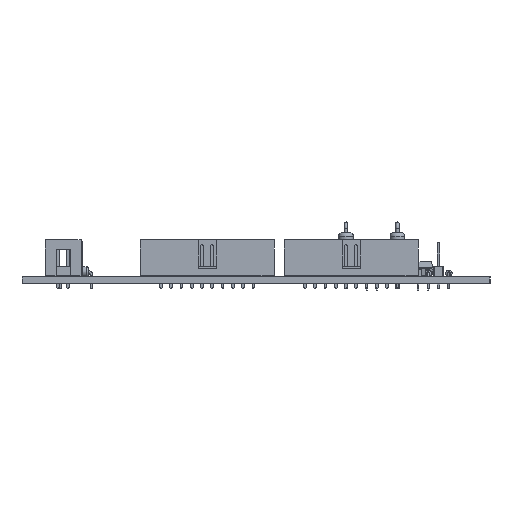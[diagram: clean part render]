
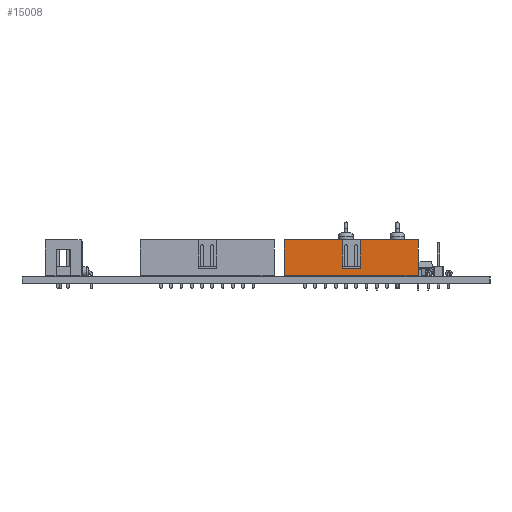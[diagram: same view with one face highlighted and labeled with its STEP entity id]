
A CAD part, left-side view. The second image highlights one B-rep face of the part: STEP entity #15008.
In plain terms, the highlighted planar face has unit normal (-1, 0, 0).
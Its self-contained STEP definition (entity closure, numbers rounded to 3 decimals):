
#15008 = ADVANCED_FACE('',(#15009),#15023,.T.);
#15009 = FACE_BOUND('',#15010,.T.);
#15010 = EDGE_LOOP('',(#15011,#15046,#15074,#15102,#15130,#15158,#15186,
    #15214));
#15011 = ORIENTED_EDGE('',*,*,#15012,.F.);
#15012 = EDGE_CURVE('',#15013,#15015,#15017,.T.);
#15013 = VERTEX_POINT('',#15014);
#15014 = CARTESIAN_POINT('',(-3.155,5.1,0.25));
#15015 = VERTEX_POINT('',#15016);
#15016 = CARTESIAN_POINT('',(-3.155,5.1,9.1));
#15017 = SURFACE_CURVE('',#15018,(#15022,#15034),.PCURVE_S1.);
#15018 = LINE('',#15019,#15020);
#15019 = CARTESIAN_POINT('',(-3.155,5.1,0.25));
#15020 = VECTOR('',#15021,1.);
#15021 = DIRECTION('',(0.,0.,1.));
#15022 = PCURVE('',#15023,#15028);
#15023 = PLANE('',#15024);
#15024 = AXIS2_PLACEMENT_3D('',#15025,#15026,#15027);
#15025 = CARTESIAN_POINT('',(-3.155,-11.43,4.675));
#15026 = DIRECTION('',(-1.,0.,0.));
#15027 = DIRECTION('',(0.,0.,-1.));
#15028 = DEFINITIONAL_REPRESENTATION('',(#15029),#15033);
#15029 = LINE('',#15030,#15031);
#15030 = CARTESIAN_POINT('',(4.425,-16.53));
#15031 = VECTOR('',#15032,1.);
#15032 = DIRECTION('',(-1.,0.));
#15033 = ( GEOMETRIC_REPRESENTATION_CONTEXT(2) 
PARAMETRIC_REPRESENTATION_CONTEXT() REPRESENTATION_CONTEXT('2D SPACE',''
  ) );
#15034 = PCURVE('',#15035,#15040);
#15035 = PLANE('',#15036);
#15036 = AXIS2_PLACEMENT_3D('',#15037,#15038,#15039);
#15037 = CARTESIAN_POINT('',(1.27,5.1,4.675));
#15038 = DIRECTION('',(0.,1.,0.));
#15039 = DIRECTION('',(0.,0.,1.));
#15040 = DEFINITIONAL_REPRESENTATION('',(#15041),#15045);
#15041 = LINE('',#15042,#15043);
#15042 = CARTESIAN_POINT('',(-4.425,-4.425));
#15043 = VECTOR('',#15044,1.);
#15044 = DIRECTION('',(1.,0.));
#15045 = ( GEOMETRIC_REPRESENTATION_CONTEXT(2) 
PARAMETRIC_REPRESENTATION_CONTEXT() REPRESENTATION_CONTEXT('2D SPACE',''
  ) );
#15046 = ORIENTED_EDGE('',*,*,#15047,.T.);
#15047 = EDGE_CURVE('',#15013,#15048,#15050,.T.);
#15048 = VERTEX_POINT('',#15049);
#15049 = CARTESIAN_POINT('',(-3.155,-27.96,0.25));
#15050 = SURFACE_CURVE('',#15051,(#15055,#15062),.PCURVE_S1.);
#15051 = LINE('',#15052,#15053);
#15052 = CARTESIAN_POINT('',(-3.155,5.1,0.25));
#15053 = VECTOR('',#15054,1.);
#15054 = DIRECTION('',(0.,-1.,0.));
#15055 = PCURVE('',#15023,#15056);
#15056 = DEFINITIONAL_REPRESENTATION('',(#15057),#15061);
#15057 = LINE('',#15058,#15059);
#15058 = CARTESIAN_POINT('',(4.425,-16.53));
#15059 = VECTOR('',#15060,1.);
#15060 = DIRECTION('',(0.,1.));
#15061 = ( GEOMETRIC_REPRESENTATION_CONTEXT(2) 
PARAMETRIC_REPRESENTATION_CONTEXT() REPRESENTATION_CONTEXT('2D SPACE',''
  ) );
#15062 = PCURVE('',#15063,#15068);
#15063 = PLANE('',#15064);
#15064 = AXIS2_PLACEMENT_3D('',#15065,#15066,#15067);
#15065 = CARTESIAN_POINT('',(1.304,-11.43,0.25));
#15066 = DIRECTION('',(0.,0.,-1.));
#15067 = DIRECTION('',(-1.,0.,0.));
#15068 = DEFINITIONAL_REPRESENTATION('',(#15069),#15073);
#15069 = LINE('',#15070,#15071);
#15070 = CARTESIAN_POINT('',(4.459,16.53));
#15071 = VECTOR('',#15072,1.);
#15072 = DIRECTION('',(0.,-1.));
#15073 = ( GEOMETRIC_REPRESENTATION_CONTEXT(2) 
PARAMETRIC_REPRESENTATION_CONTEXT() REPRESENTATION_CONTEXT('2D SPACE',''
  ) );
#15074 = ORIENTED_EDGE('',*,*,#15075,.T.);
#15075 = EDGE_CURVE('',#15048,#15076,#15078,.T.);
#15076 = VERTEX_POINT('',#15077);
#15077 = CARTESIAN_POINT('',(-3.155,-27.96,9.1));
#15078 = SURFACE_CURVE('',#15079,(#15083,#15090),.PCURVE_S1.);
#15079 = LINE('',#15080,#15081);
#15080 = CARTESIAN_POINT('',(-3.155,-27.96,2.6));
#15081 = VECTOR('',#15082,1.);
#15082 = DIRECTION('',(0.,0.,1.));
#15083 = PCURVE('',#15023,#15084);
#15084 = DEFINITIONAL_REPRESENTATION('',(#15085),#15089);
#15085 = LINE('',#15086,#15087);
#15086 = CARTESIAN_POINT('',(2.075,16.53));
#15087 = VECTOR('',#15088,1.);
#15088 = DIRECTION('',(-1.,0.));
#15089 = ( GEOMETRIC_REPRESENTATION_CONTEXT(2) 
PARAMETRIC_REPRESENTATION_CONTEXT() REPRESENTATION_CONTEXT('2D SPACE',''
  ) );
#15090 = PCURVE('',#15091,#15096);
#15091 = PLANE('',#15092);
#15092 = AXIS2_PLACEMENT_3D('',#15093,#15094,#15095);
#15093 = CARTESIAN_POINT('',(1.27,-27.96,4.675));
#15094 = DIRECTION('',(0.,-1.,0.));
#15095 = DIRECTION('',(0.,0.,-1.));
#15096 = DEFINITIONAL_REPRESENTATION('',(#15097),#15101);
#15097 = LINE('',#15098,#15099);
#15098 = CARTESIAN_POINT('',(2.075,-4.425));
#15099 = VECTOR('',#15100,1.);
#15100 = DIRECTION('',(-1.,0.));
#15101 = ( GEOMETRIC_REPRESENTATION_CONTEXT(2) 
PARAMETRIC_REPRESENTATION_CONTEXT() REPRESENTATION_CONTEXT('2D SPACE',''
  ) );
#15102 = ORIENTED_EDGE('',*,*,#15103,.F.);
#15103 = EDGE_CURVE('',#15104,#15076,#15106,.T.);
#15104 = VERTEX_POINT('',#15105);
#15105 = CARTESIAN_POINT('',(-3.155,-13.68,9.1));
#15106 = SURFACE_CURVE('',#15107,(#15111,#15118),.PCURVE_S1.);
#15107 = LINE('',#15108,#15109);
#15108 = CARTESIAN_POINT('',(-3.155,5.1,9.1));
#15109 = VECTOR('',#15110,1.);
#15110 = DIRECTION('',(0.,-1.,0.));
#15111 = PCURVE('',#15023,#15112);
#15112 = DEFINITIONAL_REPRESENTATION('',(#15113),#15117);
#15113 = LINE('',#15114,#15115);
#15114 = CARTESIAN_POINT('',(-4.425,-16.53));
#15115 = VECTOR('',#15116,1.);
#15116 = DIRECTION('',(0.,1.));
#15117 = ( GEOMETRIC_REPRESENTATION_CONTEXT(2) 
PARAMETRIC_REPRESENTATION_CONTEXT() REPRESENTATION_CONTEXT('2D SPACE',''
  ) );
#15118 = PCURVE('',#15119,#15124);
#15119 = PLANE('',#15120);
#15120 = AXIS2_PLACEMENT_3D('',#15121,#15122,#15123);
#15121 = CARTESIAN_POINT('',(1.27,-11.43,9.1));
#15122 = DIRECTION('',(0.,0.,1.));
#15123 = DIRECTION('',(1.,0.,0.));
#15124 = DEFINITIONAL_REPRESENTATION('',(#15125),#15129);
#15125 = LINE('',#15126,#15127);
#15126 = CARTESIAN_POINT('',(-4.425,16.53));
#15127 = VECTOR('',#15128,1.);
#15128 = DIRECTION('',(0.,-1.));
#15129 = ( GEOMETRIC_REPRESENTATION_CONTEXT(2) 
PARAMETRIC_REPRESENTATION_CONTEXT() REPRESENTATION_CONTEXT('2D SPACE',''
  ) );
#15130 = ORIENTED_EDGE('',*,*,#15131,.T.);
#15131 = EDGE_CURVE('',#15104,#15132,#15134,.T.);
#15132 = VERTEX_POINT('',#15133);
#15133 = CARTESIAN_POINT('',(-3.155,-13.68,2.1));
#15134 = SURFACE_CURVE('',#15135,(#15139,#15146),.PCURVE_S1.);
#15135 = LINE('',#15136,#15137);
#15136 = CARTESIAN_POINT('',(-3.155,-13.68,3.388));
#15137 = VECTOR('',#15138,1.);
#15138 = DIRECTION('',(0.,0.,-1.));
#15139 = PCURVE('',#15023,#15140);
#15140 = DEFINITIONAL_REPRESENTATION('',(#15141),#15145);
#15141 = LINE('',#15142,#15143);
#15142 = CARTESIAN_POINT('',(1.288,2.25));
#15143 = VECTOR('',#15144,1.);
#15144 = DIRECTION('',(1.,0.));
#15145 = ( GEOMETRIC_REPRESENTATION_CONTEXT(2) 
PARAMETRIC_REPRESENTATION_CONTEXT() REPRESENTATION_CONTEXT('2D SPACE',''
  ) );
#15146 = PCURVE('',#15147,#15152);
#15147 = PLANE('',#15148);
#15148 = AXIS2_PLACEMENT_3D('',#15149,#15150,#15151);
#15149 = CARTESIAN_POINT('',(-5.155,-13.68,2.1));
#15150 = DIRECTION('',(0.,1.,0.));
#15151 = DIRECTION('',(1.,0.,0.));
#15152 = DEFINITIONAL_REPRESENTATION('',(#15153),#15157);
#15153 = LINE('',#15154,#15155);
#15154 = CARTESIAN_POINT('',(2.,-1.288));
#15155 = VECTOR('',#15156,1.);
#15156 = DIRECTION('',(0.,1.));
#15157 = ( GEOMETRIC_REPRESENTATION_CONTEXT(2) 
PARAMETRIC_REPRESENTATION_CONTEXT() REPRESENTATION_CONTEXT('2D SPACE',''
  ) );
#15158 = ORIENTED_EDGE('',*,*,#15159,.T.);
#15159 = EDGE_CURVE('',#15132,#15160,#15162,.T.);
#15160 = VERTEX_POINT('',#15161);
#15161 = CARTESIAN_POINT('',(-3.155,-9.18,2.1));
#15162 = SURFACE_CURVE('',#15163,(#15167,#15174),.PCURVE_S1.);
#15163 = LINE('',#15164,#15165);
#15164 = CARTESIAN_POINT('',(-3.155,-11.43,2.1));
#15165 = VECTOR('',#15166,1.);
#15166 = DIRECTION('',(0.,1.,0.));
#15167 = PCURVE('',#15023,#15168);
#15168 = DEFINITIONAL_REPRESENTATION('',(#15169),#15173);
#15169 = LINE('',#15170,#15171);
#15170 = CARTESIAN_POINT('',(2.575,0.));
#15171 = VECTOR('',#15172,1.);
#15172 = DIRECTION('',(0.,-1.));
#15173 = ( GEOMETRIC_REPRESENTATION_CONTEXT(2) 
PARAMETRIC_REPRESENTATION_CONTEXT() REPRESENTATION_CONTEXT('2D SPACE',''
  ) );
#15174 = PCURVE('',#15175,#15180);
#15175 = PLANE('',#15176);
#15176 = AXIS2_PLACEMENT_3D('',#15177,#15178,#15179);
#15177 = CARTESIAN_POINT('',(-3.155,-11.43,2.1));
#15178 = DIRECTION('',(0.,0.,1.));
#15179 = DIRECTION('',(1.,0.,0.));
#15180 = DEFINITIONAL_REPRESENTATION('',(#15181),#15185);
#15181 = LINE('',#15182,#15183);
#15182 = CARTESIAN_POINT('',(0.,0.));
#15183 = VECTOR('',#15184,1.);
#15184 = DIRECTION('',(0.,1.));
#15185 = ( GEOMETRIC_REPRESENTATION_CONTEXT(2) 
PARAMETRIC_REPRESENTATION_CONTEXT() REPRESENTATION_CONTEXT('2D SPACE',''
  ) );
#15186 = ORIENTED_EDGE('',*,*,#15187,.T.);
#15187 = EDGE_CURVE('',#15160,#15188,#15190,.T.);
#15188 = VERTEX_POINT('',#15189);
#15189 = CARTESIAN_POINT('',(-3.155,-9.18,9.1));
#15190 = SURFACE_CURVE('',#15191,(#15195,#15202),.PCURVE_S1.);
#15191 = LINE('',#15192,#15193);
#15192 = CARTESIAN_POINT('',(-3.155,-9.18,3.388));
#15193 = VECTOR('',#15194,1.);
#15194 = DIRECTION('',(0.,0.,1.));
#15195 = PCURVE('',#15023,#15196);
#15196 = DEFINITIONAL_REPRESENTATION('',(#15197),#15201);
#15197 = LINE('',#15198,#15199);
#15198 = CARTESIAN_POINT('',(1.288,-2.25));
#15199 = VECTOR('',#15200,1.);
#15200 = DIRECTION('',(-1.,0.));
#15201 = ( GEOMETRIC_REPRESENTATION_CONTEXT(2) 
PARAMETRIC_REPRESENTATION_CONTEXT() REPRESENTATION_CONTEXT('2D SPACE',''
  ) );
#15202 = PCURVE('',#15203,#15208);
#15203 = PLANE('',#15204);
#15204 = AXIS2_PLACEMENT_3D('',#15205,#15206,#15207);
#15205 = CARTESIAN_POINT('',(-1.155,-9.18,2.1));
#15206 = DIRECTION('',(0.,-1.,0.));
#15207 = DIRECTION('',(-1.,0.,0.));
#15208 = DEFINITIONAL_REPRESENTATION('',(#15209),#15213);
#15209 = LINE('',#15210,#15211);
#15210 = CARTESIAN_POINT('',(2.,-1.288));
#15211 = VECTOR('',#15212,1.);
#15212 = DIRECTION('',(0.,-1.));
#15213 = ( GEOMETRIC_REPRESENTATION_CONTEXT(2) 
PARAMETRIC_REPRESENTATION_CONTEXT() REPRESENTATION_CONTEXT('2D SPACE',''
  ) );
#15214 = ORIENTED_EDGE('',*,*,#15215,.F.);
#15215 = EDGE_CURVE('',#15015,#15188,#15216,.T.);
#15216 = SURFACE_CURVE('',#15217,(#15221,#15228),.PCURVE_S1.);
#15217 = LINE('',#15218,#15219);
#15218 = CARTESIAN_POINT('',(-3.155,5.1,9.1));
#15219 = VECTOR('',#15220,1.);
#15220 = DIRECTION('',(0.,-1.,0.));
#15221 = PCURVE('',#15023,#15222);
#15222 = DEFINITIONAL_REPRESENTATION('',(#15223),#15227);
#15223 = LINE('',#15224,#15225);
#15224 = CARTESIAN_POINT('',(-4.425,-16.53));
#15225 = VECTOR('',#15226,1.);
#15226 = DIRECTION('',(0.,1.));
#15227 = ( GEOMETRIC_REPRESENTATION_CONTEXT(2) 
PARAMETRIC_REPRESENTATION_CONTEXT() REPRESENTATION_CONTEXT('2D SPACE',''
  ) );
#15228 = PCURVE('',#15119,#15229);
#15229 = DEFINITIONAL_REPRESENTATION('',(#15230),#15234);
#15230 = LINE('',#15231,#15232);
#15231 = CARTESIAN_POINT('',(-4.425,16.53));
#15232 = VECTOR('',#15233,1.);
#15233 = DIRECTION('',(0.,-1.));
#15234 = ( GEOMETRIC_REPRESENTATION_CONTEXT(2) 
PARAMETRIC_REPRESENTATION_CONTEXT() REPRESENTATION_CONTEXT('2D SPACE',''
  ) );
